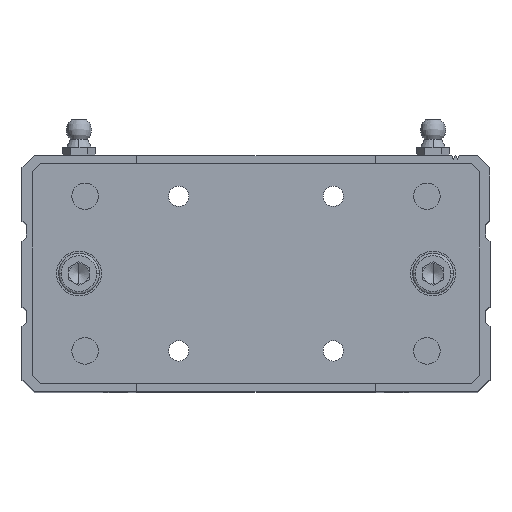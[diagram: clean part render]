
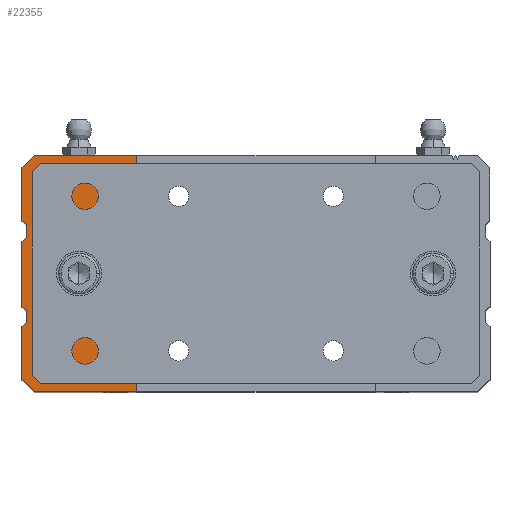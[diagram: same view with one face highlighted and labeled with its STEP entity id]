
A CAD part, top view. The second image highlights one B-rep face of the part: STEP entity #22355.
In plain terms, the highlighted planar face has unit normal (0, 0, 1).
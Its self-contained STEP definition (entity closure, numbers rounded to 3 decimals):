
#284 = ORIENTED_EDGE ( 'NONE', *, *, #8574, .T. ) ;
#404 = AXIS2_PLACEMENT_3D ( 'NONE', #8083, #13997, #11999 ) ;
#549 = EDGE_CURVE ( 'NONE', #22426, #18951, #1521, .T. ) ;
#730 = CARTESIAN_POINT ( 'NONE',  ( 54.5, -29., 140. ) ) ;
#1068 = VERTEX_POINT ( 'NONE', #24239 ) ;
#1141 = EDGE_CURVE ( 'NONE', #24271, #1956, #8084, .T. ) ;
#1479 = VERTEX_POINT ( 'NONE', #4856 ) ;
#1521 = LINE ( 'NONE', #21554, #22320 ) ;
#1527 = EDGE_CURVE ( 'NONE', #16130, #3991, #9959, .T. ) ;
#1576 = VERTEX_POINT ( 'NONE', #6244 ) ;
#1591 = CARTESIAN_POINT ( 'NONE',  ( -54.5, -29., 140. ) ) ;
#1815 = VECTOR ( 'NONE', #12226, 1000. ) ;
#1956 = VERTEX_POINT ( 'NONE', #25452 ) ;
#1974 = CARTESIAN_POINT ( 'NONE',  ( -57.5, -29., 140. ) ) ;
#2130 = CARTESIAN_POINT ( 'NONE',  ( -57.5, -26., 140. ) ) ;
#2415 = CARTESIAN_POINT ( 'NONE',  ( -57.5, -13., 140. ) ) ;
#2634 = ORIENTED_EDGE ( 'NONE', *, *, #22588, .T. ) ;
#2825 = ORIENTED_EDGE ( 'NONE', *, *, #14140, .T. ) ;
#2917 = AXIS2_PLACEMENT_3D ( 'NONE', #6553, #20487, #6724 ) ;
#3071 = ORIENTED_EDGE ( 'NONE', *, *, #22504, .T. ) ;
#3711 = CARTESIAN_POINT ( 'NONE',  ( -29.25, -29., 140. ) ) ;
#3991 = VERTEX_POINT ( 'NONE', #12095 ) ;
#3998 = EDGE_CURVE ( 'NONE', #1068, #24271, #5831, .T. ) ;
#4068 = ORIENTED_EDGE ( 'NONE', *, *, #549, .T. ) ;
#4132 = CARTESIAN_POINT ( 'NONE',  ( -57.5, -29., 140. ) ) ;
#4837 = VECTOR ( 'NONE', #8247, 1000. ) ;
#4856 = CARTESIAN_POINT ( 'NONE',  ( -57.5, 26., 140. ) ) ;
#5135 = EDGE_CURVE ( 'NONE', #18669, #1479, #6735, .T. ) ;
#5149 = CARTESIAN_POINT ( 'NONE',  ( -57.5, -8., 140. ) ) ;
#5680 = DIRECTION ( 'NONE',  ( 0., -1., 0. ) ) ;
#5831 = LINE ( 'NONE', #4132, #18452 ) ;
#6173 = CARTESIAN_POINT ( 'NONE',  ( -57.5, 8., 140. ) ) ;
#6239 = EDGE_LOOP ( 'NONE', ( #16394, #11121, #284, #3071, #14387, #2634, #21666, #2825, #22848, #24634, #17491, #21453, #9194, #4068 ) ) ;
#6244 = CARTESIAN_POINT ( 'NONE',  ( -56.5, 9., 140. ) ) ;
#6362 = CARTESIAN_POINT ( 'NONE',  ( -57.5, -13., 140. ) ) ;
#6553 = CARTESIAN_POINT ( 'NONE',  ( -57.5, -29., 140. ) ) ;
#6724 = DIRECTION ( 'NONE',  ( 1., 0., 0. ) ) ;
#6735 = LINE ( 'NONE', #18314, #4837 ) ;
#7456 = VECTOR ( 'NONE', #16783, 1000. ) ;
#7460 = EDGE_CURVE ( 'NONE', #1576, #1068, #8220, .T. ) ;
#7526 = CARTESIAN_POINT ( 'NONE',  ( -57.5, 29., 140. ) ) ;
#7776 = DIRECTION ( 'NONE',  ( 1., 0., 0. ) ) ;
#8083 = CARTESIAN_POINT ( 'NONE',  ( -43.5, 0., 140. ) ) ;
#8084 = LINE ( 'NONE', #24326, #1815 ) ;
#8092 = CARTESIAN_POINT ( 'NONE',  ( -51.5, 0., 140. ) ) ;
#8220 = LINE ( 'NONE', #6173, #25631 ) ;
#8247 = DIRECTION ( 'NONE',  ( -0.707, -0.707, 0. ) ) ;
#8574 = EDGE_CURVE ( 'NONE', #10062, #13984, #15764, .T. ) ;
#8655 = CARTESIAN_POINT ( 'NONE',  ( -56.5, -12., 140. ) ) ;
#8823 = LINE ( 'NONE', #23289, #14190 ) ;
#9194 = ORIENTED_EDGE ( 'NONE', *, *, #9593, .T. ) ;
#9538 = FACE_BOUND ( 'NONE', #18111, .T. ) ;
#9593 = EDGE_CURVE ( 'NONE', #22298, #22426, #16934, .T. ) ;
#9645 = LINE ( 'NONE', #730, #25142 ) ;
#9667 = CARTESIAN_POINT ( 'NONE',  ( -29.25, 29., 140. ) ) ;
#9726 = VECTOR ( 'NONE', #26115, 1000. ) ;
#9959 = LINE ( 'NONE', #20184, #23890 ) ;
#10062 = VERTEX_POINT ( 'NONE', #3711 ) ;
#11076 = CARTESIAN_POINT ( 'NONE',  ( -29.25, 29., 140. ) ) ;
#11121 = ORIENTED_EDGE ( 'NONE', *, *, #22713, .T. ) ;
#11465 = LINE ( 'NONE', #1974, #17460 ) ;
#11766 = LINE ( 'NONE', #7526, #14273 ) ;
#11999 = DIRECTION ( 'NONE',  ( 1., 0., 0. ) ) ;
#12095 = CARTESIAN_POINT ( 'NONE',  ( -56.5, 12., 140. ) ) ;
#12226 = DIRECTION ( 'NONE',  ( 0.707, -0.707, 0. ) ) ;
#12254 = VERTEX_POINT ( 'NONE', #16968 ) ;
#13591 = DIRECTION ( 'NONE',  ( 0., -1., 0. ) ) ;
#13620 = DIRECTION ( 'NONE',  ( -1., 0., 0. ) ) ;
#13938 = CARTESIAN_POINT ( 'NONE',  ( -56.5, -29., 140. ) ) ;
#13984 = VERTEX_POINT ( 'NONE', #11076 ) ;
#13997 = DIRECTION ( 'NONE',  ( 0., 0., -1. ) ) ;
#14140 = EDGE_CURVE ( 'NONE', #3991, #1576, #18893, .T. ) ;
#14190 = VECTOR ( 'NONE', #23374, 1000. ) ;
#14273 = VECTOR ( 'NONE', #13620, 1000. ) ;
#14370 = DIRECTION ( 'NONE',  ( 0.707, -0.707, 0. ) ) ;
#14387 = ORIENTED_EDGE ( 'NONE', *, *, #5135, .T. ) ;
#15404 = CIRCLE ( 'NONE', #16048, 8. ) ;
#15764 = LINE ( 'NONE', #9667, #9726 ) ;
#16048 = AXIS2_PLACEMENT_3D ( 'NONE', #20007, #18004, #7776 ) ;
#16130 = VERTEX_POINT ( 'NONE', #25382 ) ;
#16295 = CARTESIAN_POINT ( 'NONE',  ( -54.5, 29., 140. ) ) ;
#16394 = ORIENTED_EDGE ( 'NONE', *, *, #23356, .T. ) ;
#16447 = ORIENTED_EDGE ( 'NONE', *, *, #24390, .T. ) ;
#16783 = DIRECTION ( 'NONE',  ( -0.707, -0.707, 0. ) ) ;
#16810 = FACE_OUTER_BOUND ( 'NONE', #6239, .T. ) ;
#16898 = VECTOR ( 'NONE', #13591, 1000. ) ;
#16934 = LINE ( 'NONE', #6362, #7456 ) ;
#16968 = CARTESIAN_POINT ( 'NONE',  ( -35.5, 0., 140. ) ) ;
#17460 = VECTOR ( 'NONE', #5680, 1000. ) ;
#17491 = ORIENTED_EDGE ( 'NONE', *, *, #1141, .T. ) ;
#17540 = EDGE_CURVE ( 'NONE', #1956, #22298, #22258, .T. ) ;
#17679 = VERTEX_POINT ( 'NONE', #8092 ) ;
#17997 = DIRECTION ( 'NONE',  ( 0., -1., 0. ) ) ;
#18004 = DIRECTION ( 'NONE',  ( 0., 0., -1. ) ) ;
#18111 = EDGE_LOOP ( 'NONE', ( #22995, #16447 ) ) ;
#18247 = DIRECTION ( 'NONE',  ( 0., -1., 0. ) ) ;
#18314 = CARTESIAN_POINT ( 'NONE',  ( -54.5, 29., 140. ) ) ;
#18452 = VECTOR ( 'NONE', #18247, 1000. ) ;
#18544 = CIRCLE ( 'NONE', #404, 8. ) ;
#18669 = VERTEX_POINT ( 'NONE', #16295 ) ;
#18815 = PLANE ( 'NONE',  #2917 ) ;
#18893 = LINE ( 'NONE', #13938, #19527 ) ;
#18951 = VERTEX_POINT ( 'NONE', #2130 ) ;
#19355 = VERTEX_POINT ( 'NONE', #1591 ) ;
#19527 = VECTOR ( 'NONE', #17997, 1000. ) ;
#20007 = CARTESIAN_POINT ( 'NONE',  ( -43.5, 0., 140. ) ) ;
#20184 = CARTESIAN_POINT ( 'NONE',  ( -56.5, 12., 140. ) ) ;
#20301 = EDGE_CURVE ( 'NONE', #17679, #12254, #15404, .T. ) ;
#20487 = DIRECTION ( 'NONE',  ( 0., 0., 1. ) ) ;
#20742 = DIRECTION ( 'NONE',  ( 1., 0., 0. ) ) ;
#21453 = ORIENTED_EDGE ( 'NONE', *, *, #17540, .T. ) ;
#21554 = CARTESIAN_POINT ( 'NONE',  ( -57.5, -29., 140. ) ) ;
#21666 = ORIENTED_EDGE ( 'NONE', *, *, #1527, .T. ) ;
#22157 = DIRECTION ( 'NONE',  ( -0.707, -0.707, 0. ) ) ;
#22258 = LINE ( 'NONE', #23577, #16898 ) ;
#22298 = VERTEX_POINT ( 'NONE', #8655 ) ;
#22320 = VECTOR ( 'NONE', #23162, 1000. ) ;
#22355 = ADVANCED_FACE ( 'NONE', ( #9538, #16810 ), #18815, .T. ) ;
#22426 = VERTEX_POINT ( 'NONE', #2415 ) ;
#22504 = EDGE_CURVE ( 'NONE', #13984, #18669, #11766, .T. ) ;
#22588 = EDGE_CURVE ( 'NONE', #1479, #16130, #11465, .T. ) ;
#22713 = EDGE_CURVE ( 'NONE', #19355, #10062, #9645, .T. ) ;
#22848 = ORIENTED_EDGE ( 'NONE', *, *, #7460, .T. ) ;
#22995 = ORIENTED_EDGE ( 'NONE', *, *, #20301, .T. ) ;
#23162 = DIRECTION ( 'NONE',  ( 0., -1., 0. ) ) ;
#23289 = CARTESIAN_POINT ( 'NONE',  ( -57.5, -26., 140. ) ) ;
#23356 = EDGE_CURVE ( 'NONE', #18951, #19355, #8823, .T. ) ;
#23374 = DIRECTION ( 'NONE',  ( 0.707, -0.707, 0. ) ) ;
#23577 = CARTESIAN_POINT ( 'NONE',  ( -56.5, -29., 140. ) ) ;
#23890 = VECTOR ( 'NONE', #14370, 1000. ) ;
#24239 = CARTESIAN_POINT ( 'NONE',  ( -57.5, 8., 140. ) ) ;
#24271 = VERTEX_POINT ( 'NONE', #5149 ) ;
#24326 = CARTESIAN_POINT ( 'NONE',  ( -56.5, -9., 140. ) ) ;
#24390 = EDGE_CURVE ( 'NONE', #12254, #17679, #18544, .T. ) ;
#24634 = ORIENTED_EDGE ( 'NONE', *, *, #3998, .T. ) ;
#25142 = VECTOR ( 'NONE', #20742, 1000. ) ;
#25382 = CARTESIAN_POINT ( 'NONE',  ( -57.5, 13., 140. ) ) ;
#25452 = CARTESIAN_POINT ( 'NONE',  ( -56.5, -9., 140. ) ) ;
#25631 = VECTOR ( 'NONE', #22157, 1000. ) ;
#26115 = DIRECTION ( 'NONE',  ( 0., 1., 0. ) ) ;
